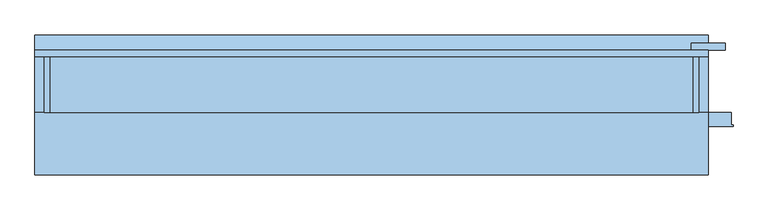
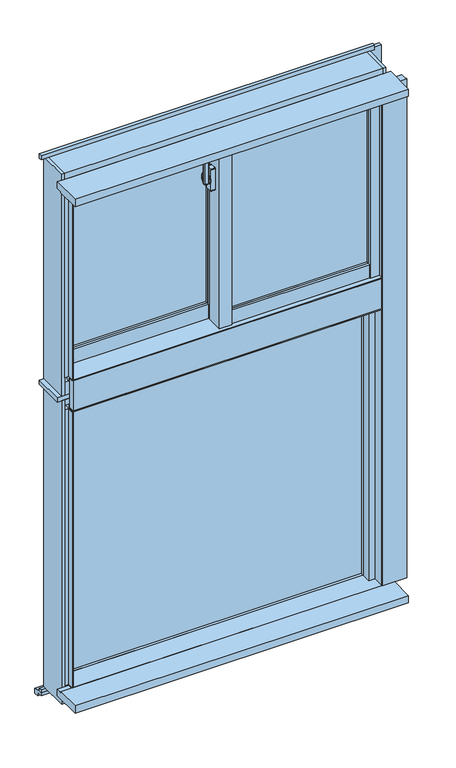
"""IFC4 building model written with IfcOpenShell, lengths in millimetres: window geometry, FNSⅡ100R_非防火_ALC枠_段窓_分解無目 : 引違/FIX."""

from ifc_helpers import new_model, si_unit, point, frame, frame_2d, origin, place, context, project, spatial, polyline, circle_curve, trimmed, segment, composite_curve, outline, extrude, faceted_brep, source, transform, mapped, element, save
from ifc_brep_helpers import plane_surface, cylinder_surface, revolved_surface, advanced_brep


def window_fbf614af(model_context):
    return source(origin(), model_context, "Body", "SolidModel", [
        extrude(outline(composite_curve([segment(polyline([(-39.0, 14.6), (-39.0, 6.4)]), True, "CONTINUOUS"), segment(trimmed(circle_curve(frame_2d((-41.0, 6.4)), 2.0), [point((-39.0, 6.4))], [point((-41.3606557, 4.4327869))], False, "CARTESIAN"), True, "CONTINUOUS"), segment(polyline([(-41.3606557, 4.4327869), (-52.3606557, 6.4494536)]), True, "CONTINUOUS"), segment(trimmed(circle_curve(frame_2d((-52.0, 8.4166667)), 2.0), [point((-52.3606557, 6.4494536))], [point((-54.0, 8.4166667))], False, "CARTESIAN"), True, "CONTINUOUS"), segment(polyline([(-54.0, 8.4166667), (-54.0, 12.5833333)]), True, "CONTINUOUS"), segment(trimmed(circle_curve(frame_2d((-52.0, 12.5833333)), 2.0), [point((-54.0, 12.5833333))], [point((-52.3606557, 14.5505464))], False, "CARTESIAN"), True, "CONTINUOUS"), segment(polyline([(-52.3606557, 14.5505464), (-41.3606557, 16.5672131)]), True, "CONTINUOUS"), segment(trimmed(circle_curve(frame_2d((-41.0, 14.6)), 2.0), [point((-41.3606557, 16.5672131))], [point((-39.0, 14.6))], False, "CARTESIAN"), True, "CONTINUOUS")], self_intersect=False)), frame((0.0, 0.0, 2445.0), z_axis=(0.0, 0.0, 1.0), x_axis=(1.0, 0.0, 0.0)), (0.0, 0.0, 1.0), 100.0),
        advanced_brep(
        [(-37.5, 18.8234285, 2476.7333311), (-45.5, 18.8234285, 2476.7333311), (-45.5, 18.4351999, 2475.2844424), (-39.0, 18.4351999, 2475.2844424), (-39.0, 16.6234666, 2468.5229616), (-37.5, 16.6234666, 2468.5229616), (-39.0, 16.6466117, 2434.3190372), (-45.5, 16.6466117, 2434.3190372), (-45.5, 16.907084, 2432.8418256), (-37.5, 16.907084, 2432.8418256), (-37.5, 15.4310745, 2441.2126915), (-39.0, 15.4310745, 2441.2126915)],
        [
            (0, 1),
            (1, 2),
            (2, 3),
            (3, 4),
            (4, 5),
            (5, 0),
            (6, 7),
            (7, 8),
            (8, 9),
            (9, 10),
            (10, 11),
            (11, 6),
            (0, 9, circle_curve(frame((-37.5, 13.0, 2455.0), z_axis=(-1.0, 0.0, 0.0), x_axis=(0.0, 0.25881904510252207, 0.965925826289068)), 22.5)),
            (8, 1, circle_curve(frame((-45.5, 13.0, 2455.0), z_axis=(1.0, 0.0, 0.0), x_axis=(0.0, 0.25881904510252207, 0.965925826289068)), 22.5)),
            (7, 2, circle_curve(frame((-45.5, 13.0, 2455.0), z_axis=(1.0, 0.0, 0.0), x_axis=(0.0, 0.25881904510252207, 0.965925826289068)), 21.0)),
            (6, 3, circle_curve(frame((-39.0, 13.0, 2455.0), z_axis=(1.0, 0.0, 0.0), x_axis=(0.0, 0.25881904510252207, 0.965925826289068)), 21.0)),
            (11, 4, circle_curve(frame((-39.0, 13.0, 2455.0), z_axis=(-1.0, 0.0, 0.0), x_axis=(0.0, -1.0, 0.0)), 14.0)),
            (5, 10, circle_curve(frame((-37.5, 13.0, 2455.0), z_axis=(1.0, 0.0, 0.0), x_axis=(0.0, -1.0, 0.0)), 14.0)),
        ],
        [
            plane_surface(frame((-43.5470497, 13.0, 2455.0), z_axis=(0.0, -0.965925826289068, 0.25881904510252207), x_axis=(0.0, 0.25881904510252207, 0.965925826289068))),
            plane_surface(frame((-43.5470497, 13.0, 2455.0), z_axis=(0.0, -0.9848077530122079, -0.17364817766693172), x_axis=(0.0, 0.17364817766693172, -0.9848077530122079))),
            cylinder_surface(frame((-43.5470497, 13.0, 2455.0), z_axis=(-1.0, 0.0, 0.0), x_axis=(0.0, 0.25881904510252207, 0.965925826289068)), 22.5),
            plane_surface(frame((-45.5, 13.0, 2455.0), z_axis=(-1.0, 0.0, 0.0), x_axis=(0.0, 0.25881904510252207, 0.965925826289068))),
            revolved_surface(polyline([(-45.5, 18.435199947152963, 2475.2844423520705), (-39.0, 18.435199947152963, 2475.2844423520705)]), (-43.5470497, 13.0, 2455.0), (-1.0, 0.0, 0.0)),
            plane_surface(frame((-39.0, 13.0, 2455.0), z_axis=(-1.0, 0.0, 0.0), x_axis=(0.0, 0.25881904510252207, 0.965925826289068))),
            plane_surface(frame((-37.5, 13.0, 2455.0), z_axis=(1.0, 0.0, 0.0), x_axis=(0.0, 0.25881904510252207, 0.965925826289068))),
            cylinder_surface(frame((-37.5, 13.0, 2455.0), z_axis=(-1.0, 0.0, 0.0), x_axis=(0.0, -1.0, 0.0)), 14.0),
        ],
        [
            (0, [[1, 2, 3, 4, 5, 6]]),
            (1, [[7, 8, 9, 10, 11, 12]]),
            (2, [[-1, 13, -9, 14]]),
            (3, [[-2, -14, -8, 15]]),
            (4, [[-3, -15, -7, 16]]),
            (5, [[-16, -12, 17, -4]]),
            (6, [[-13, -6, 18, -10]]),
            (7, [[-17, -11, -18, -5]]),
        ],
    ),
        extrude(outline(composite_curve([segment(trimmed(circle_curve(frame_2d((13.0, 2455.0)), 11.5), [point((24.5, 2455.0))], [point((1.5, 2455.0))], False, "CARTESIAN"), True, "CONTINUOUS"), segment(trimmed(circle_curve(frame_2d((13.0, 2455.0)), 11.5), [point((1.5, 2455.0))], [point((24.5, 2455.0))], False, "CARTESIAN"), True, "CONTINUOUS")], self_intersect=False)), frame((-37.5, 0.0, 0.0), z_axis=(1.0, 0.0, 0.0), x_axis=(0.0, 1.0, 0.0)), (0.0, 0.0, 1.0), 2.5),
        extrude(outline(composite_curve([segment(polyline([(4.0, 2492.5), (22.0, 2492.5)]), True, "CONTINUOUS"), segment(trimmed(circle_curve(frame_2d((22.0, 2490.5)), 2.0), [point((22.0, 2492.5))], [point((24.0, 2490.5))], False, "CARTESIAN"), True, "CONTINUOUS"), segment(polyline([(24.0, 2490.5), (24.0, 2419.5)]), True, "CONTINUOUS"), segment(trimmed(circle_curve(frame_2d((22.0, 2419.5)), 2.0), [point((24.0, 2419.5))], [point((22.0, 2417.5))], False, "CARTESIAN"), True, "CONTINUOUS"), segment(polyline([(22.0, 2417.5), (4.0, 2417.5)]), True, "CONTINUOUS"), segment(trimmed(circle_curve(frame_2d((4.0, 2419.5)), 2.0), [point((4.0, 2417.5))], [point((2.0, 2419.5))], False, "CARTESIAN"), True, "CONTINUOUS"), segment(polyline([(2.0, 2419.5), (2.0, 2490.5)]), True, "CONTINUOUS"), segment(trimmed(circle_curve(frame_2d((4.0, 2490.5)), 2.0), [point((2.0, 2490.5))], [point((4.0, 2492.5))], False, "CARTESIAN"), True, "CONTINUOUS")], self_intersect=False)), frame((-35.0, 0.0, 0.0), z_axis=(1.0, 0.0, 0.0), x_axis=(0.0, 1.0, 0.0)), (0.0, 0.0, 1.0), 15.0),
        extrude(outline(polyline([(20.0, 4.0), (468.0, 4.0), (468.0, -2.0), (20.0, -2.0), (20.0, 4.0)])), frame((0.0, 0.0, 2003.0), z_axis=(0.0, 0.0, 1.0), x_axis=(1.0, 0.0, 0.0)), (0.0, 0.0, 1.0), 567.0),
        extrude(outline(polyline([(20.0, 22.0), (468.0, 22.0), (468.0, 16.0), (20.0, 16.0), (20.0, 22.0)])), frame((0.0, 0.0, 2003.0), z_axis=(0.0, 0.0, 1.0), x_axis=(1.0, 0.0, 0.0)), (0.0, 0.0, 1.0), 567.0),
        extrude(outline(polyline([(-468.0, 62.0), (-20.0, 62.0), (-20.0, 56.0), (-468.0, 56.0), (-468.0, 62.0)])), frame((0.0, 0.0, 2003.0), z_axis=(0.0, 0.0, 1.0), x_axis=(1.0, 0.0, 0.0)), (0.0, 0.0, 1.0), 567.0),
        extrude(outline(polyline([(-468.0, 80.0), (-20.0, 80.0), (-20.0, 74.0), (-468.0, 74.0), (-468.0, 80.0)])), frame((0.0, 0.0, 2003.0), z_axis=(0.0, 0.0, 1.0), x_axis=(1.0, 0.0, 0.0)), (0.0, 0.0, 1.0), 567.0),
        faceted_brep([(-489.5, 59.0, 2610.0), (-500.0, 59.0, 2610.0), (-500.0, 59.0, 1915.0), (-468.0, 59.0, 1915.0), (-468.0, 59.0, 1955.0), (-489.5, 59.0, 1955.0), (-489.5, 46.0, 2610.0), (-489.5, 46.0, 1955.0), (-468.0, 88.0, 2610.0), (-468.0, 46.0, 2610.0), (-468.0, 46.0, 1955.0), (-468.0, 88.0, 1915.0), (-500.0, 88.0, 2610.0), (-500.0, 88.0, 1915.0)], [[[0, 1, 2, 3, 4, 5]], [[6, 0, 5, 7]], [[8, 9, 10, 4, 3, 11]], [[1, 0, 6, 9, 8, 12]], [[3, 2, 13, 11]], [[9, 6, 7, 10]], [[12, 8, 11, 13]], [[2, 1, 12, 13]], [[5, 4, 10, 7]]]),
        faceted_brep([(-1.8, 33.1, 2610.0), (-1.8, 45.5, 2610.0), (-1.8, 45.5, 1955.0), (-1.8, 33.1, 1955.0), (-20.0, 45.5, 2610.0), (20.0, 33.1, 2610.0), (20.0, 88.0, 2610.0), (-20.0, 88.0, 2610.0), (-20.0, 88.0, 1915.0), (20.0, 88.0, 1915.0), (20.0, 59.0, 1915.0), (-20.0, 59.0, 1915.0), (-20.0, 45.5, 1955.0), (20.0, 33.1, 1955.0), (20.0, 59.0, 1955.0), (-20.0, 59.0, 1955.0)], [[[0, 1, 2, 3]], [[4, 1, 0, 5, 6, 7]], [[8, 9, 10, 11]], [[1, 4, 12, 2]], [[5, 0, 3, 13]], [[6, 5, 13, 14, 10, 9]], [[7, 6, 9, 8]], [[4, 7, 8, 11, 15, 12]], [[14, 15, 11, 10]], [[15, 14, 13, 3, 2, 12]]]),
        extrude(outline(polyline([(-20.0, 33.1), (-15.0, 33.1), (-15.0, -12.0), (15.0, -12.0), (15.0, -8.0), (20.0, -8.0), (20.0, -20.0), (-20.0, -20.0), (-20.0, 33.1)])), frame((0.0, 0.0, 1955.0), z_axis=(0.0, 0.0, 1.0), x_axis=(1.0, 0.0, 0.0)), (0.0, 0.0, 1.0), 655.0),
        extrude(outline(polyline([(-15.0, 33.1), (20.0, 33.1), (20.0, -8.0), (15.0, -8.0), (15.0, -12.0), (-15.0, -12.0), (-15.0, 33.1)])), frame((0.0, 0.0, 1955.0), z_axis=(0.0, 0.0, 1.0), x_axis=(1.0, 0.0, 0.0)), (0.0, 0.0, 1.0), 655.0),
        extrude(outline(polyline([(468.0, -20.0), (468.0, -12.0), (489.5, -12.0), (489.5, 1.0), (497.0, 1.0), (497.0, -20.0), (468.0, -20.0)])), frame((0.0, 0.0, 1958.0), z_axis=(0.0, 0.0, 1.0), x_axis=(1.0, 0.0, 0.0)), (0.0, 0.0, 1.0), 652.0),
        extrude(outline(polyline([(468.0, 30.0), (500.0, 30.0), (500.0, 1.0), (489.5, 1.0), (489.5, -12.0), (468.0, -12.0), (468.0, 30.0)])), frame((0.0, 0.0, 1955.0), z_axis=(0.0, 0.0, 1.0), x_axis=(1.0, 0.0, 0.0)), (0.0, 0.0, 1.0), 655.0),
        extrude(outline(polyline([(-1.85, 45.5), (-1.85, 38.0), (-20.0, 38.0), (-20.0, 45.5), (-1.85, 45.5)])), frame((0.0, 0.0, 1955.0), z_axis=(0.0, 0.0, 1.0), x_axis=(1.0, 0.0, 0.0)), (0.0, 0.0, 1.0), 655.0),
        extrude(outline(polyline([(-497.0, 59.0), (-489.5, 59.0), (-489.5, 46.0), (-468.0, 46.0), (-468.0, 38.0), (-497.0, 38.0), (-497.0, 59.0)])), frame((0.0, 0.0, 1955.0), z_axis=(0.0, 0.0, 1.0), x_axis=(1.0, 0.0, 0.0)), (0.0, 0.0, 1.0), 655.0),
        extrude(outline(polyline([(-18.0, 1958.0), (-18.0, 2003.0), (-10.0, 2003.0), (-10.0, 1980.5), (1.0, 1980.5), (1.0, 1958.0), (-18.0, 1958.0)])), frame((20.0, 0.0, 0.0), z_axis=(1.0, 0.0, 0.0), x_axis=(0.0, 1.0, 0.0)), (0.0, 0.0, 1.0), 448.0),
        extrude(outline(polyline([(30.0, 1955.0), (1.0, 1955.0), (1.0, 1980.5), (-10.0, 1980.5), (-10.0, 2003.0), (30.0, 2003.0), (30.0, 1955.0)])), frame((20.0, 0.0, 0.0), z_axis=(1.0, 0.0, 0.0), x_axis=(0.0, 1.0, 0.0)), (0.0, 0.0, 1.0), 448.0),
        extrude(outline(polyline([(40.0, 2003.0), (48.0, 2003.0), (48.0, 1980.5), (59.0, 1980.5), (59.0, 1955.0), (40.0, 1955.0), (40.0, 2003.0)])), frame((-468.0, 0.0, 0.0), z_axis=(1.0, 0.0, 0.0), x_axis=(0.0, 1.0, 0.0)), (0.0, 0.0, 1.0), 448.0),
        extrude(outline(polyline([(88.0, 1915.0), (59.0, 1915.0), (59.0, 1980.5), (48.0, 1980.5), (48.0, 2003.0), (88.0, 2003.0), (88.0, 1915.0)])), frame((-468.0, 0.0, 0.0), z_axis=(1.0, 0.0, 0.0), x_axis=(0.0, 1.0, 0.0)), (0.0, 0.0, 1.0), 448.0),
        extrude(outline(polyline([(3.0, 2590.5), (-10.0, 2590.5), (-10.0, 2570.0), (-18.0, 2570.0), (-18.0, 2610.0), (3.0, 2610.0), (3.0, 2590.5)])), frame((20.0, 0.0, 0.0), z_axis=(1.0, 0.0, 0.0), x_axis=(0.0, 1.0, 0.0)), (0.0, 0.0, 1.0), 448.0),
        extrude(outline(polyline([(30.0, 2610.0), (30.0, 2570.0), (-10.0, 2570.0), (-10.0, 2590.5), (3.0, 2590.5), (3.0, 2610.0), (30.0, 2610.0)])), frame((20.0, 0.0, 0.0), z_axis=(1.0, 0.0, 0.0), x_axis=(0.0, 1.0, 0.0)), (0.0, 0.0, 1.0), 448.0),
        extrude(outline(polyline([(61.0, 2590.5), (48.0, 2590.5), (48.0, 2570.0), (40.0, 2570.0), (40.0, 2610.0), (61.0, 2610.0), (61.0, 2590.5)])), frame((-468.0, 0.0, 0.0), z_axis=(1.0, 0.0, 0.0), x_axis=(0.0, 1.0, 0.0)), (0.0, 0.0, 1.0), 448.0),
        extrude(outline(polyline([(88.0, 2610.0), (88.0, 2570.0), (48.0, 2570.0), (48.0, 2590.5), (61.0, 2590.5), (61.0, 2610.0), (88.0, 2610.0)])), frame((-468.0, 0.0, 0.0), z_axis=(1.0, 0.0, 0.0), x_axis=(0.0, 1.0, 0.0)), (0.0, 0.0, 1.0), 448.0),
        extrude(outline(polyline([(-15.0, 60.3), (-15.0, 11.9), (-500.0, 11.9), (-500.0, 60.3), (-15.0, 60.3)])), frame((0.0, 0.0, 2610.0), z_axis=(0.0, 0.0, 1.0), x_axis=(1.0, 0.0, 0.0)), (0.0, 0.0, 1.0), 25.0),
        faceted_brep([(515.0, 60.3, 2635.0), (515.0, -10.0, 2635.0), (-515.0, -10.0, 2635.0), (-515.0, 60.3, 2635.0), (-15.0, 60.3, 2635.0), (-15.0, 11.9, 2635.0), (500.0, 11.9, 2635.0), (500.0, 60.3, 2635.0), (-515.0, 60.3, 2610.0), (-15.0, 60.3, 2610.0), (515.0, 60.3, 2610.0), (500.0, 60.3, 2610.0), (515.0, 90.0, 2610.0), (500.0, 11.9, 2610.0), (-15.0, 11.9, 2610.0), (-515.0, 90.0, 2610.0), (515.0, 90.0, 2655.0), (-515.0, 90.0, 2655.0), (515.0, -10.0, 2655.0), (-515.0, -10.0, 2655.0)], [[[0, 1, 2, 3, 4, 5, 6, 7]], [[3, 8, 9, 4]], [[10, 0, 7, 11]], [[12, 10, 11, 13, 14, 9, 8, 15]], [[16, 12, 15, 17]], [[18, 16, 17, 19]], [[1, 18, 19, 2]], [[12, 16, 18, 1, 0, 10]], [[15, 8, 3, 2, 19, 17]], [[6, 13, 11, 7]], [[9, 14, 5, 4]], [[13, 6, 5, 14]]]),
        extrude(outline(polyline([(11.9, 2610.0), (-30.0, 2610.0), (-30.0, 2613.0), (-10.0, 2613.0), (-10.0, 2635.0), (11.9, 2635.0), (11.9, 2610.0)])), frame((-500.0, 0.0, 0.0), z_axis=(1.0, 0.0, 0.0), x_axis=(0.0, 1.0, 0.0)), (0.0, 0.0, 1.0), 1000.0),
        faceted_brep([(500.0, -30.0, 1955.0), (503.0, -30.0, 1955.0), (503.0, -30.0, 2613.0), (500.0, -30.0, 2613.0), (500.0, -5.5, 2630.0), (515.0, -5.5, 2630.0), (515.0, -5.5, 1955.0), (500.0, -5.5, 1955.0), (500.0, -10.0, 2613.0), (500.0, -10.0, 2630.0), (503.0, -10.0, 2613.0), (515.0, -10.0, 2630.0), (515.0, -10.0, 1955.0), (503.0, -10.0, 1955.0)], [[[0, 1, 2, 3]], [[4, 5, 6, 7]], [[7, 0, 3, 8, 9, 4]], [[10, 8, 3, 2]], [[9, 11, 5, 4]], [[0, 7, 6, 12, 13, 1]], [[1, 13, 10, 2]], [[9, 8, 10, 13, 12, 11]], [[5, 11, 12, 6]]]),
        faceted_brep([(-515.0, 56.0, 2630.0), (-500.0, 56.0, 2630.0), (-500.0, 56.0, 1955.0), (-515.0, 56.0, 1955.0), (-515.0, -10.0, 2630.0), (-500.0, -10.0, 2630.0), (-515.0, -10.0, 1955.0), (-500.0, -30.0, 1955.0), (-503.0, -30.0, 1955.0), (-503.0, -10.0, 1955.0), (-503.0, -10.0, 2613.0), (-500.0, -10.0, 2613.0), (-503.0, -30.0, 2613.0), (-500.0, -30.0, 2613.0)], [[[0, 1, 2, 3]], [[4, 5, 1, 0]], [[6, 3, 2, 7, 8, 9]], [[6, 9, 10, 11, 5, 4]], [[9, 8, 12, 10]], [[8, 7, 13, 12]], [[7, 2, 1, 5, 11, 13]], [[6, 4, 0, 3]], [[11, 10, 12, 13]]]),
        faceted_brep([(-525.0, 90.0, 1895.0), (-515.0, 90.0, 1895.0), (-515.0, -10.0, 1895.0), (-525.0, -10.0, 1895.0), (-515.0, -10.0, 2655.0), (-525.0, -10.0, 2655.0), (-500.0, 90.0, 1904.0), (-500.0, 56.0, 1904.0), (-515.0, 56.0, 1904.0), (-515.0, 90.0, 1904.0), (-500.0, 56.0, 2610.0), (-515.0, 56.0, 2610.0), (-525.0, 90.0, 2655.0), (-515.0, 90.0, 2655.0), (-515.0, 90.0, 2610.0), (-500.0, 90.0, 2610.0)], [[[0, 1, 2, 3]], [[4, 5, 3, 2]], [[6, 7, 8, 9]], [[10, 11, 8, 7]], [[12, 5, 4, 13]], [[5, 12, 0, 3]], [[13, 4, 2, 1, 9, 8, 11, 14]], [[12, 13, 14, 15, 6, 9, 1, 0]], [[15, 14, 11, 10]], [[15, 10, 7, 6]]]),
        faceted_brep([(515.0, -10.0, 1895.0), (515.0, 90.0, 1895.0), (525.0, 90.0, 1895.0), (525.0, -10.0, 1895.0), (500.0, -5.5, 1904.0), (500.0, 90.0, 1904.0), (515.0, 90.0, 1904.0), (515.0, -5.5, 1904.0), (515.0, -10.0, 2655.0), (515.0, 90.0, 2655.0), (515.0, 90.0, 2610.0), (515.0, -5.5, 2610.0), (525.0, -10.0, 2655.0), (525.0, 90.0, 2655.0), (500.0, -5.5, 2610.0), (500.0, 90.0, 2610.0)], [[[0, 1, 2, 3]], [[4, 5, 6, 7]], [[8, 9, 10, 11, 7, 6, 1, 0]], [[8, 12, 13, 9]], [[11, 14, 4, 7]], [[14, 15, 5, 4]], [[14, 11, 10, 15]], [[12, 8, 0, 3]], [[13, 12, 3, 2]], [[9, 13, 2, 1, 6, 5, 15, 10]]]),
        faceted_brep([(515.0, 56.0, 1904.0), (515.0, 90.0, 1904.0), (-515.0, 90.0, 1904.0), (-515.0, 56.0, 1904.0), (515.0, -10.0, 1939.0), (515.0, 56.0, 1939.0), (-515.0, 56.0, 1939.0), (-515.0, -10.0, 1939.0), (500.0, 17.25, 1939.0), (500.0, -1.2, 1939.0), (-15.0, -1.2, 1939.0), (-15.0, 17.25, 1939.0), (515.0, 90.0, 1895.0), (515.0, -10.0, 1895.0), (-515.0, -10.0, 1895.0), (-515.0, 90.0, 1895.0), (500.0, -1.2, 1955.0), (500.0, 17.25, 1955.0), (-15.0, -1.2, 1955.0), (-15.0, 17.25, 1955.0)], [[[0, 1, 2, 3]], [[4, 5, 6, 7], [8, 9, 10, 11]], [[5, 0, 3, 6]], [[12, 13, 14, 15]], [[12, 1, 0, 5, 4, 13]], [[15, 14, 7, 6, 3, 2]], [[13, 4, 7, 14]], [[1, 12, 15, 2]], [[16, 9, 8, 17]], [[18, 19, 11, 10]], [[9, 16, 18, 10]], [[17, 8, 11, 19]], [[16, 17, 19, 18]]]),
        faceted_brep([(-503.0, -10.0, 1939.0), (-503.0, -10.0, 1952.0), (-503.0, -30.0, 1952.0), (-503.0, -30.0, 1955.0), (-503.0, -1.2, 1955.0), (-503.0, -1.2, 1939.0), (503.0, -10.0, 1952.0), (503.0, -30.0, 1952.0), (503.0, -30.0, 1955.0), (503.0, -5.5, 1955.0), (500.0, -5.5, 1955.0), (500.0, -1.2, 1955.0), (-15.0, -1.2, 1955.0), (-15.0, 56.0, 1955.0), (-500.0, 56.0, 1955.0), (-500.0, -1.2, 1955.0), (-500.0, -1.2, 1939.0), (500.0, -1.2, 1939.0), (-15.0, -1.2, 1939.0), (503.0, -10.0, 1939.0), (503.0, -5.5, 1939.0), (-500.0, 56.0, 1939.0), (-15.0, 56.0, 1939.0), (500.0, -5.5, 1939.0)], [[[0, 1, 2, 3, 4, 5]], [[6, 7, 2, 1]], [[7, 8, 3, 2]], [[4, 3, 8, 9, 10, 11, 12, 13, 14, 15]], [[5, 4, 15, 16]], [[11, 17, 18, 12]], [[8, 7, 6, 19, 20, 9]], [[19, 6, 1, 0]], [[0, 5, 16, 21, 22, 18, 17, 23, 20, 19]], [[10, 23, 17, 11]], [[23, 10, 9, 20]], [[13, 12, 18, 22]], [[14, 21, 16, 15]], [[13, 22, 21, 14]]]),
        extrude(outline(polyline([(-480.0, 55.6), (480.0, 55.6), (480.0, 49.6), (-480.0, 49.6), (-480.0, 55.6)])), frame((0.0, 0.0, 900.0), z_axis=(0.0, 0.0, 1.0), x_axis=(1.0, 0.0, 0.0)), (0.0, 0.0, 1.0), 925.0),
        extrude(outline(polyline([(-480.0, 73.6), (480.0, 73.6), (480.0, 67.6), (-480.0, 67.6), (-480.0, 73.6)])), frame((0.0, 0.0, 900.0), z_axis=(0.0, 0.0, 1.0), x_axis=(1.0, 0.0, 0.0)), (0.0, 0.0, 1.0), 925.0),
        faceted_brep([(-480.0, 40.0, 1825.0), (-515.0, 40.0, 1825.0), (-515.0, 40.0, 900.0), (-480.0, 40.0, 900.0), (-480.0, 90.0, 1825.0), (-480.0, 90.0, 900.0), (-515.0, 90.0, 1880.0), (-515.0, -10.0, 1880.0), (-515.0, -10.0, 840.0), (-515.0, 90.0, 840.0), (-515.0, 90.0, 900.0), (-515.0, 90.0, 1825.0), (-525.0, 90.0, 1880.0), (-525.0, -10.0, 1880.0), (-525.0, 90.0, 840.0), (-525.0, -10.0, 840.0)], [[[0, 1, 2, 3]], [[4, 0, 3, 5]], [[6, 7, 8, 9, 10, 2, 1, 11]], [[5, 3, 2, 10]], [[12, 13, 7, 6]], [[14, 9, 8, 15]], [[13, 12, 14, 15]], [[7, 13, 15, 8]], [[12, 6, 11, 4, 5, 10, 9, 14]], [[4, 11, 1, 0]]]),
        faceted_brep([(480.0, 40.0, 1825.0), (480.0, 90.0, 1825.0), (480.0, 90.0, 900.0), (480.0, 40.0, 900.0), (515.0, 40.0, 1825.0), (515.0, 40.0, 900.0), (525.0, -10.0, 1880.0), (515.0, -10.0, 1880.0), (515.0, -10.0, 840.0), (525.0, -10.0, 840.0), (525.0, 90.0, 1880.0), (525.0, 90.0, 840.0), (515.0, 90.0, 900.0), (515.0, 90.0, 1880.0), (515.0, 90.0, 840.0), (515.0, 90.0, 1825.0)], [[[0, 1, 2, 3]], [[4, 0, 3, 5]], [[6, 7, 8, 9]], [[10, 6, 9, 11]], [[5, 3, 2, 12]], [[10, 13, 7, 6]], [[11, 9, 8, 14]], [[13, 10, 11, 14, 12, 2, 1, 15]], [[7, 13, 15, 4, 5, 12, 14, 8]], [[15, 1, 0, 4]]]),
        extrude(outline(polyline([(500.0, -30.0), (500.0, 8.5), (480.0, 8.5), (480.0, 40.0), (515.0, 40.0), (515.0, -10.0), (503.0, -10.0), (503.0, -30.0), (500.0, -30.0)])), frame((0.0, 0.0, 900.0), z_axis=(0.0, 0.0, 1.0), x_axis=(1.0, 0.0, 0.0)), (0.0, 0.0, 1.0), 945.0),
        extrude(outline(polyline([(-515.0, -10.0), (-515.0, 40.0), (-480.0, 40.0), (-480.0, 8.5), (-500.0, 8.5), (-500.0, -30.0), (-503.0, -30.0), (-503.0, -10.0), (-515.0, -10.0)])), frame((0.0, 0.0, 900.0), z_axis=(0.0, 0.0, 1.0), x_axis=(1.0, 0.0, 0.0)), (0.0, 0.0, 1.0), 945.0),
        extrude(outline(polyline([(-10.0, 884.0), (-10.0, 897.0), (-30.0, 897.0), (-30.0, 900.0), (40.0, 900.0), (40.0, 884.0), (-10.0, 884.0)])), frame((-503.0, 0.0, 0.0), z_axis=(1.0, 0.0, 0.0), x_axis=(0.0, 1.0, 0.0)), (0.0, 0.0, 1.0), 1006.0),
        extrude(outline(polyline([(90.0, 840.0), (-10.0, 840.0), (-10.0, 884.0), (40.0, 884.0), (40.0, 900.0), (90.0, 900.0), (90.0, 870.0), (71.0, 870.0), (71.0, 850.0), (90.0, 850.0), (90.0, 840.0)])), frame((-515.0, 0.0, 0.0), z_axis=(1.0, 0.0, 0.0), x_axis=(0.0, 1.0, 0.0)), (0.0, 0.0, 1.0), 1030.0),
        extrude(outline(polyline([(40.0, 1822.0), (6.0, 1822.0), (6.0, 1845.0), (-30.0, 1845.0), (-30.0, 1848.0), (-10.0, 1848.0), (-10.0, 1860.0), (40.0, 1860.0), (40.0, 1822.0)])), frame((-503.0, 0.0, 0.0), z_axis=(1.0, 0.0, 0.0), x_axis=(0.0, 1.0, 0.0)), (0.0, 0.0, 1.0), 1006.0),
        extrude(outline(polyline([(90.0, 1825.0), (40.0, 1825.0), (40.0, 1860.0), (-10.0, 1860.0), (-10.0, 1880.0), (90.0, 1880.0), (90.0, 1825.0)])), frame((-515.0, 0.0, 0.0), z_axis=(1.0, 0.0, 0.0), x_axis=(0.0, 1.0, 0.0)), (0.0, 0.0, 1.0), 1030.0),
        extrude(outline(polyline([(-110.0, 900.0), (-30.0, 900.0), (-30.0, 897.0), (-10.0, 897.0), (-10.0, 875.0), (-110.0, 875.0), (-110.0, 900.0)])), frame((-540.0, 0.0, 0.0), z_axis=(1.0, 0.0, 0.0), x_axis=(0.0, 1.0, 0.0)), (0.0, 0.0, 1.0), 1080.0),
        extrude(outline(polyline([(-540.0, 80.0), (-540.0, 90.0), (540.0, 90.0), (540.0, 80.0), (-540.0, 80.0)])), frame((0.0, 0.0, 830.0), z_axis=(0.0, 0.0, 1.0), x_axis=(1.0, 0.0, 0.0)), (0.0, 0.0, 1.0), 10.0),
        extrude(outline(polyline([(100.0, 807.0), (100.0, 820.0), (80.0, 820.0), (80.0, 830.0), (90.0, 830.0), (115.0, 825.0), (115.0, 807.0), (100.0, 807.0)])), frame((-540.0, 0.0, 0.0), z_axis=(1.0, 0.0, 0.0), x_axis=(0.0, 1.0, 0.0)), (0.0, 0.0, 1.0), 1080.0),
        extrude(outline(polyline([(503.0, -30.0), (503.0, -10.0), (577.0, -10.0), (577.0, -30.0), (580.0, -30.0), (580.0, -32.5), (500.0, -32.5), (500.0, -30.0), (503.0, -30.0)])), frame((0.0, 0.0, 900.0), z_axis=(0.0, 0.0, 1.0), x_axis=(1.0, 0.0, 0.0)), (0.0, 0.0, 1.0), 1710.0),
        extrude(outline(polyline([(567.5, 90.0), (512.5, 90.0), (512.5, 102.0), (567.5, 102.0), (567.5, 90.0)])), frame((0.0, 0.0, 840.0), z_axis=(0.0, 0.0, 1.0), x_axis=(1.0, 0.0, 0.0)), (0.0, 0.0, 1.0), 1815.0),
        extrude(outline(polyline([(-110.0, 2635.0), (-10.0, 2635.0), (-10.0, 2613.0), (-30.0, 2613.0), (-30.0, 2610.0), (-110.0, 2610.0), (-110.0, 2635.0)])), frame((-540.0, 0.0, 0.0), z_axis=(1.0, 0.0, 0.0), x_axis=(0.0, 1.0, 0.0)), (0.0, 0.0, 1.0), 1080.0),
        extrude(outline(polyline([(-500.0, -30.0), (-500.0, -10.0), (500.0, -10.0), (500.0, -30.0), (-500.0, -30.0)])), frame((0.0, 0.0, 1848.0), z_axis=(0.0, 0.0, 1.0), x_axis=(1.0, 0.0, 0.0)), (0.0, 0.0, 1.0), 104.0),
        extrude(outline(polyline([(-540.0, -10.0), (-540.0, 90.0), (540.0, 90.0), (540.0, -10.0), (-540.0, -10.0)])), frame((0.0, 0.0, 1880.0), z_axis=(0.0, 0.0, 1.0), x_axis=(1.0, 0.0, 0.0)), (0.0, 0.0, 1.0), 15.0),
        extrude(outline(polyline([(-540.0, 80.0), (-540.0, 90.0), (540.0, 90.0), (540.0, 80.0), (-540.0, 80.0)])), frame((0.0, 0.0, 2655.0), z_axis=(0.0, 0.0, 1.0), x_axis=(1.0, 0.0, 0.0)), (0.0, 0.0, 1.0), 15.0),
    ])


if __name__ == "__main__":
    model = new_model("IFC4")
    model_context = context("Model", 3, world=origin())
    ifc_project = project(units=[si_unit("LENGTHUNIT", "METRE", prefix="MILLI")], contexts=[model_context])
    site = spatial("IfcSite", under=ifc_project)
    building = spatial("IfcBuilding", under=site)
    placement = place(None, origin())
    window_shape = window_fbf614af(model_context)
    element("IfcWindow", 1, ObjectType="FNSⅡ100R_非防火_ALC枠_段窓_分解無目 : 引違/FIX", at=placement, inside=building, context=model_context, shape_type="MappedRepresentation", body=[
        mapped(window_shape, transform((0.0, 0.0, 0.0), x_axis=(1.0, 0.0, 0.0), y_axis=(0.0, 1.0, 0.0), z_axis=(0.0, 0.0, 1.0))),
    ])
    save(model, "model.ifc")
